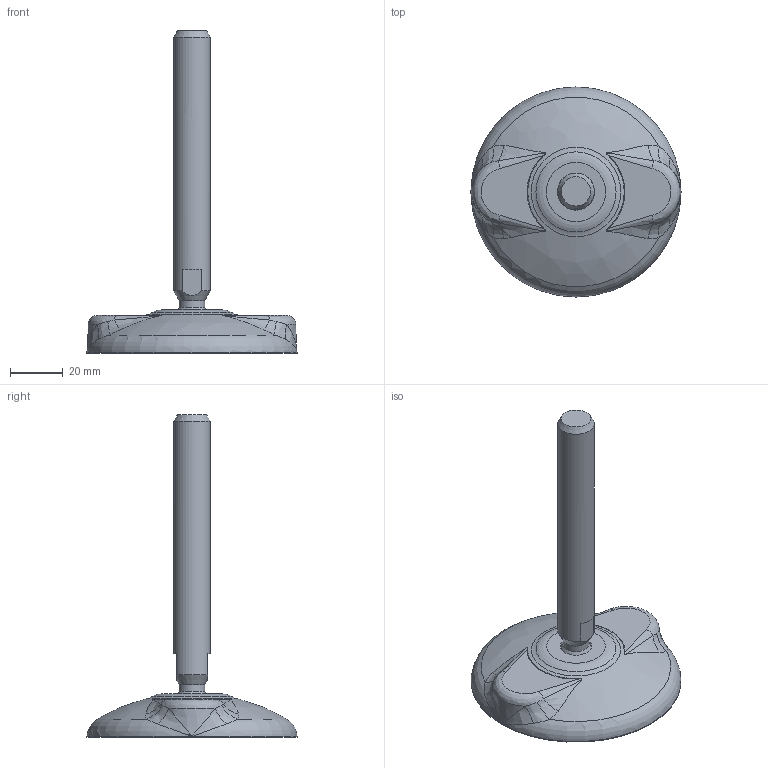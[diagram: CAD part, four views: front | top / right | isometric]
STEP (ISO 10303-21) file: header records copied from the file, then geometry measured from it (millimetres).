
FILE_DESCRIPTION(/* description */ ('Piede Ø 80 M14x91 con antiscivolo L=126 mm'),/* implementation_level */ '2;1');
FILE_NAME(/* name */ 'C:\Users\Stefan.Nesic\Desktop\01010STEP\P080M14X126.stp',/* time_stamp */ '2022-06-17T14:52:10+02:00',/* author */ (''),/* organization */ (''),/* preprocessor_version */ 'ST-DEVELOPER v18.1',/* originating_system */ 'Autodesk Inventor 2021',/* authorisation */ '');
FILE_SCHEMA (('AUTOMOTIVE_DESIGN { 1 0 10303 214 3 1 1 }'));
Length unit declared in the file: millimetre
Products named in the file (1): P080M14X126
Bounding box: 80.01 x 80.01 x 122.7 mm (x, y, z)
Volume: 60679.9 mm3; surface area: 18647.1 mm2
Topology: 2 solids, 2 shells, 59 faces, 138 edges, 86 vertices
Faces by surface type: bspline 23, plane 13, cone 10, cylinder 6, torus 4, sphere 3
Full cylindrical faces by diameter (mm): 9.7 x1, 11.892 x1, 12.4 x1, 14 x1, 18 x1, 72.01 x1
Entity records: 5000 total; most frequent: CARTESIAN_POINT 3719, ORIENTED_EDGE 272, DIRECTION 234, EDGE_CURVE 136, AXIS2_PLACEMENT_3D 107, VERTEX_POINT 86, CIRCLE 70, EDGE_LOOP 64
